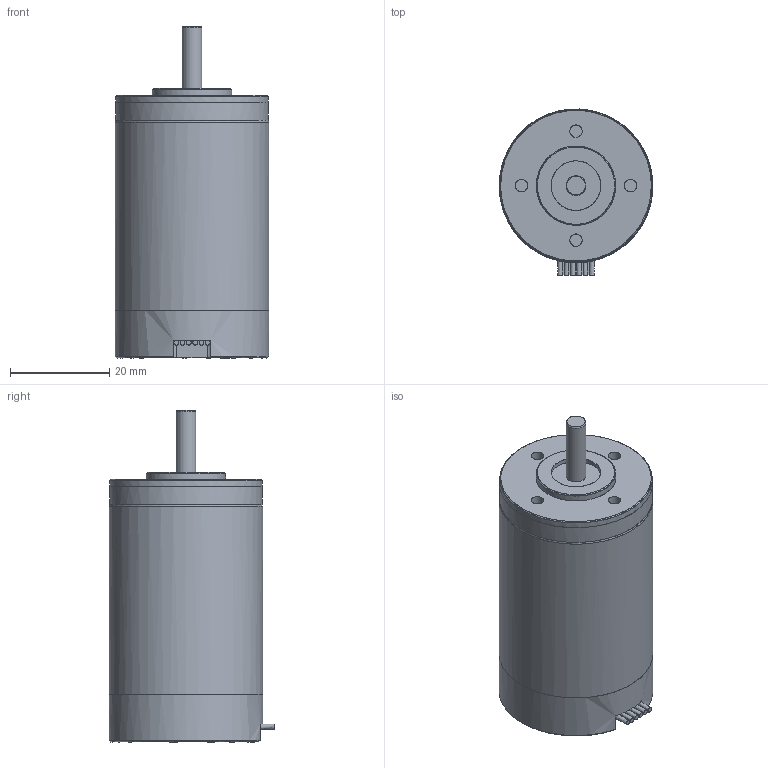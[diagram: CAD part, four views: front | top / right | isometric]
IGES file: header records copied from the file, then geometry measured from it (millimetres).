
Global section: file name: D:\Daten-Huge\PLM_Export\A_Internet_Modelle\Motoren\31xx\3153K_BRC\3153K_BRC.igs; native system: NX V7.5; preprocessor: SIEMENS PLM Software NX 7.5; author: DR. FRITZ FAULHABER GmbH & Co. KG; organization: DR. FRITZ FAULHABER GmbH & Co. KG; date: 20131021.145539; units: millimetre
Bounding box: 31 x 33.45 x 67 mm (x, y, z)
Surface area: 7202.9 mm2 (no closed solid volume)
Topology: 0 solids, 0 shells, 68 faces, 554 edges, 536 vertices
Faces by surface type: bspline 68
